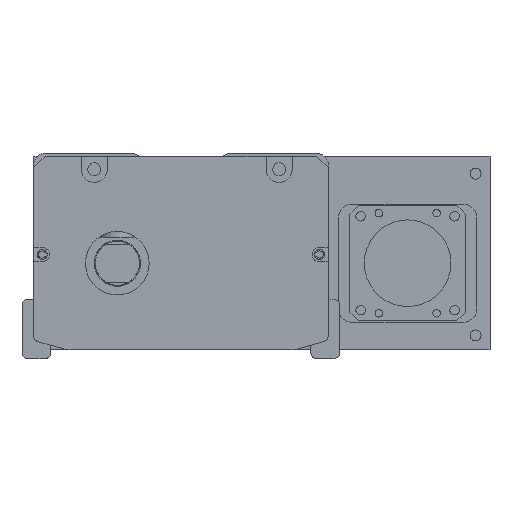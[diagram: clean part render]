
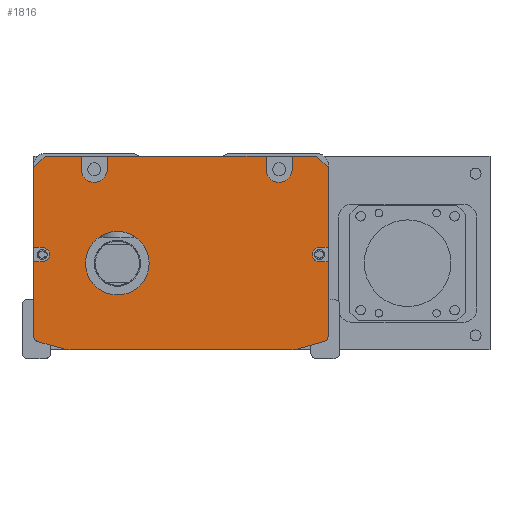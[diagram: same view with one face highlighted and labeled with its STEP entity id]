
A CAD part, front view. The second image highlights one B-rep face of the part: STEP entity #1816.
In plain terms, the highlighted planar face has unit normal (0, -1, 0).
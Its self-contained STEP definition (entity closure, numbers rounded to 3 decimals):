
#1816=ADVANCED_FACE('',(#4344,#4345),#2345,.F.);
#2345=PLANE('',#13677);
#2874=LINE('',#26432,#3667);
#2878=LINE('',#26441,#3671);
#2886=LINE('',#26468,#3679);
#2890=LINE('',#26477,#3683);
#2897=LINE('',#26493,#3690);
#2899=LINE('',#26498,#3692);
#2914=LINE('',#26541,#3707);
#2916=LINE('',#26549,#3709);
#2919=LINE('',#26553,#3712);
#2940=LINE('',#26621,#3733);
#2944=LINE('',#26630,#3737);
#2948=LINE('',#26639,#3741);
#2952=LINE('',#26648,#3745);
#2956=LINE('',#26664,#3749);
#2960=LINE('',#26670,#3753);
#2961=LINE('',#26671,#3754);
#2963=LINE('',#26687,#3756);
#2964=LINE('',#26688,#3757);
#2965=LINE('',#26689,#3758);
#2966=LINE('',#26690,#3759);
#3667=VECTOR('',#16139,1.);
#3671=VECTOR('',#16145,1.);
#3679=VECTOR('',#16167,1.);
#3683=VECTOR('',#16173,1.);
#3690=VECTOR('',#16182,1.);
#3692=VECTOR('',#16186,1.);
#3707=VECTOR('',#16225,1.);
#3709=VECTOR('',#16235,1.);
#3712=VECTOR('',#16240,1.);
#3733=VECTOR('',#16315,1.);
#3737=VECTOR('',#16321,1.);
#3741=VECTOR('',#16327,1.);
#3745=VECTOR('',#16333,1.);
#3749=VECTOR('',#16351,1.);
#3753=VECTOR('',#16355,1.);
#3754=VECTOR('',#16356,1.);
#3756=VECTOR('',#16380,1.);
#3757=VECTOR('',#16381,1.);
#3758=VECTOR('',#16382,1.);
#3759=VECTOR('',#16383,1.);
#4344=FACE_BOUND('',#5190,.T.);
#4345=FACE_BOUND('',#5191,.T.);
#5190=EDGE_LOOP('',(#7619,#7620,#7621,#7622,#7623,#7624,#7625,#7626,#7627,
#7628,#7629,#7630,#7631,#7632,#7633,#7634,#7635,#7636,#7637,#7638,#7639,
#7640,#7641,#7642,#7643,#7644,#7645,#7646));
#5191=EDGE_LOOP('',(#7647));
#7619=ORIENTED_EDGE('',*,*,#11532,.T.);
#7620=ORIENTED_EDGE('',*,*,#11409,.T.);
#7621=ORIENTED_EDGE('',*,*,#11519,.T.);
#7622=ORIENTED_EDGE('',*,*,#11436,.F.);
#7623=ORIENTED_EDGE('',*,*,#11473,.T.);
#7624=ORIENTED_EDGE('',*,*,#11438,.F.);
#7625=ORIENTED_EDGE('',*,*,#11524,.T.);
#7626=ORIENTED_EDGE('',*,*,#11425,.F.);
#7627=ORIENTED_EDGE('',*,*,#11470,.T.);
#7628=ORIENTED_EDGE('',*,*,#11429,.F.);
#7629=ORIENTED_EDGE('',*,*,#11523,.T.);
#7630=ORIENTED_EDGE('',*,*,#11413,.T.);
#7631=ORIENTED_EDGE('',*,*,#11533,.T.);
#7632=ORIENTED_EDGE('',*,*,#11503,.T.);
#7633=ORIENTED_EDGE('',*,*,#11531,.T.);
#7634=ORIENTED_EDGE('',*,*,#11499,.T.);
#7635=ORIENTED_EDGE('',*,*,#11534,.T.);
#7636=ORIENTED_EDGE('',*,*,#11456,.T.);
#7637=ORIENTED_EDGE('',*,*,#11459,.T.);
#7638=ORIENTED_EDGE('',*,*,#11462,.T.);
#7639=ORIENTED_EDGE('',*,*,#11463,.T.);
#7640=ORIENTED_EDGE('',*,*,#11419,.T.);
#7641=ORIENTED_EDGE('',*,*,#11466,.T.);
#7642=ORIENTED_EDGE('',*,*,#11421,.T.);
#7643=ORIENTED_EDGE('',*,*,#11535,.T.);
#7644=ORIENTED_EDGE('',*,*,#11511,.T.);
#7645=ORIENTED_EDGE('',*,*,#11530,.T.);
#7646=ORIENTED_EDGE('',*,*,#11507,.T.);
#7647=ORIENTED_EDGE('',*,*,#11475,.T.);
#9893=VERTEX_POINT('',#26433);
#9894=VERTEX_POINT('',#26434);
#9897=VERTEX_POINT('',#26442);
#9898=VERTEX_POINT('',#26443);
#9903=VERTEX_POINT('',#26454);
#9904=VERTEX_POINT('',#26456);
#9905=VERTEX_POINT('',#26460);
#9906=VERTEX_POINT('',#26461);
#9909=VERTEX_POINT('',#26469);
#9910=VERTEX_POINT('',#26470);
#9913=VERTEX_POINT('',#26478);
#9914=VERTEX_POINT('',#26479);
#9918=VERTEX_POINT('',#26488);
#9920=VERTEX_POINT('',#26492);
#9921=VERTEX_POINT('',#26496);
#9923=VERTEX_POINT('',#26499);
#9933=VERTEX_POINT('',#26529);
#9936=VERTEX_POINT('',#26534);
#9938=VERTEX_POINT('',#26540);
#9940=VERTEX_POINT('',#26546);
#9943=VERTEX_POINT('',#26572);
#9959=VERTEX_POINT('',#26619);
#9961=VERTEX_POINT('',#26622);
#9964=VERTEX_POINT('',#26629);
#9965=VERTEX_POINT('',#26631);
#9967=VERTEX_POINT('',#26637);
#9969=VERTEX_POINT('',#26640);
#9972=VERTEX_POINT('',#26647);
#9973=VERTEX_POINT('',#26649);
#11409=EDGE_CURVE('',#9893,#9894,#2874,.T.);
#11413=EDGE_CURVE('',#9897,#9898,#2878,.T.);
#11419=EDGE_CURVE('',#9904,#9903,#12564,.T.);
#11421=EDGE_CURVE('',#9905,#9906,#12565,.T.);
#11425=EDGE_CURVE('',#9909,#9910,#2886,.T.);
#11429=EDGE_CURVE('',#9913,#9914,#2890,.T.);
#11436=EDGE_CURVE('',#9920,#9918,#2897,.T.);
#11438=EDGE_CURVE('',#9921,#9923,#2899,.T.);
#11456=EDGE_CURVE('',#9933,#9936,#12572,.T.);
#11459=EDGE_CURVE('',#9936,#9938,#2914,.T.);
#11462=EDGE_CURVE('',#9938,#9940,#12574,.T.);
#11463=EDGE_CURVE('',#9940,#9904,#2916,.T.);
#11466=EDGE_CURVE('',#9903,#9905,#2919,.T.);
#11470=EDGE_CURVE('',#9909,#9914,#12577,.T.);
#11473=EDGE_CURVE('',#9920,#9923,#12580,.T.);
#11475=EDGE_CURVE('',#9943,#9943,#12581,.T.);
#11499=EDGE_CURVE('',#9961,#9959,#2940,.T.);
#11503=EDGE_CURVE('',#9965,#9964,#2944,.T.);
#11507=EDGE_CURVE('',#9969,#9967,#2948,.T.);
#11511=EDGE_CURVE('',#9973,#9972,#2952,.T.);
#11519=EDGE_CURVE('',#9894,#9918,#2956,.T.);
#11523=EDGE_CURVE('',#9913,#9897,#2960,.T.);
#11524=EDGE_CURVE('',#9921,#9910,#2961,.T.);
#11530=EDGE_CURVE('',#9972,#9969,#12595,.T.);
#11531=EDGE_CURVE('',#9964,#9961,#12596,.T.);
#11532=EDGE_CURVE('',#9967,#9893,#2963,.T.);
#11533=EDGE_CURVE('',#9898,#9965,#2964,.T.);
#11534=EDGE_CURVE('',#9959,#9933,#2965,.T.);
#11535=EDGE_CURVE('',#9906,#9973,#2966,.T.);
#12564=CIRCLE('',#13604,10.);
#12565=CIRCLE('',#13606,2.);
#12572=CIRCLE('',#13622,2.);
#12574=CIRCLE('',#13626,10.);
#12577=CIRCLE('',#13634,4.5);
#12580=CIRCLE('',#13639,4.5);
#12581=CIRCLE('',#13642,11.);
#12595=CIRCLE('',#13673,2.5);
#12596=CIRCLE('',#13675,2.5);
#13604=AXIS2_PLACEMENT_3D('',#26455,#16154,#16155);
#13606=AXIS2_PLACEMENT_3D('',#26459,#16159,#16160);
#13622=AXIS2_PLACEMENT_3D('',#26535,#16219,#16220);
#13626=AXIS2_PLACEMENT_3D('',#26547,#16231,#16232);
#13634=AXIS2_PLACEMENT_3D('',#26561,#16252,#16253);
#13639=AXIS2_PLACEMENT_3D('',#26567,#16262,#16263);
#13642=AXIS2_PLACEMENT_3D('',#26571,#16269,#16270);
#13673=AXIS2_PLACEMENT_3D('',#26683,#16372,#16373);
#13675=AXIS2_PLACEMENT_3D('',#26685,#16376,#16377);
#13677=AXIS2_PLACEMENT_3D('',#26691,#16384,#16385);
#16139=DIRECTION('',(-0.707,0.,0.707));
#16145=DIRECTION('',(-0.707,0.,-0.707));
#16154=DIRECTION('',(0.,-1.,0.));
#16155=DIRECTION('',(0.,0.,-1.));
#16159=DIRECTION('',(0.,-1.,0.));
#16160=DIRECTION('',(0.,0.,-1.));
#16167=DIRECTION('',(0.,0.,1.));
#16173=DIRECTION('',(0.,0.,-1.));
#16182=DIRECTION('',(0.,0.,1.));
#16186=DIRECTION('',(0.,0.,-1.));
#16219=DIRECTION('',(0.,-1.,0.));
#16220=DIRECTION('',(0.,0.,1.));
#16225=DIRECTION('',(0.963,0.,-0.269));
#16231=DIRECTION('',(0.,-1.,0.));
#16232=DIRECTION('',(0.,0.,1.));
#16235=DIRECTION('',(1.,0.,0.));
#16240=DIRECTION('',(0.963,0.,0.269));
#16252=DIRECTION('',(0.,1.,0.));
#16253=DIRECTION('',(0.,0.,1.));
#16262=DIRECTION('',(0.,1.,0.));
#16263=DIRECTION('',(0.,0.,1.));
#16269=DIRECTION('',(0.,1.,0.));
#16270=DIRECTION('',(0.,0.,1.));
#16315=DIRECTION('',(-1.,0.,0.));
#16321=DIRECTION('',(1.,0.,0.));
#16327=DIRECTION('',(1.,0.,0.));
#16333=DIRECTION('',(-1.,0.,0.));
#16351=DIRECTION('',(-1.,0.,0.));
#16355=DIRECTION('',(-1.,0.,0.));
#16356=DIRECTION('',(-1.,0.,0.));
#16372=DIRECTION('',(0.,1.,0.));
#16373=DIRECTION('',(0.,0.,1.));
#16376=DIRECTION('',(0.,1.,0.));
#16377=DIRECTION('',(0.,0.,1.));
#16380=DIRECTION('',(0.,0.,1.));
#16381=DIRECTION('',(0.,0.,-1.));
#16382=DIRECTION('',(0.,0.,-1.));
#16383=DIRECTION('',(0.,0.,1.));
#16384=DIRECTION('',(0.,1.,0.));
#16385=DIRECTION('',(-1.,0.,0.));
#26432=CARTESIAN_POINT('',(43.808,-117.5,-1.));
#26433=CARTESIAN_POINT('',(47.808,-117.5,-5.));
#26434=CARTESIAN_POINT('',(43.808,-117.5,-1.));
#26441=CARTESIAN_POINT('',(-54.192,-117.5,-5.));
#26442=CARTESIAN_POINT('',(-50.192,-117.5,-1.));
#26443=CARTESIAN_POINT('',(-54.192,-117.5,-5.));
#26454=CARTESIAN_POINT('',(37.424,-117.5,-67.631));
#26455=CARTESIAN_POINT('',(34.733,-117.5,-58.));
#26456=CARTESIAN_POINT('',(34.733,-117.5,-68.));
#26459=CARTESIAN_POINT('',(45.808,-117.5,-63.212));
#26460=CARTESIAN_POINT('',(46.346,-117.5,-65.138));
#26461=CARTESIAN_POINT('',(47.808,-117.5,-63.212));
#26468=CARTESIAN_POINT('',(-28.692,-117.5,-3.5));
#26469=CARTESIAN_POINT('',(-28.692,-117.5,-5.5));
#26470=CARTESIAN_POINT('',(-28.692,-117.5,-1.));
#26477=CARTESIAN_POINT('',(-37.692,-117.5,-1.));
#26478=CARTESIAN_POINT('',(-37.692,-117.5,-1.));
#26479=CARTESIAN_POINT('',(-37.692,-117.5,-5.5));
#26488=CARTESIAN_POINT('',(35.308,-117.5,-1.));
#26492=CARTESIAN_POINT('',(35.308,-117.5,-5.5));
#26493=CARTESIAN_POINT('',(35.308,-117.5,-1.));
#26496=CARTESIAN_POINT('',(26.308,-117.5,-1.));
#26498=CARTESIAN_POINT('',(26.308,-117.5,-1.));
#26499=CARTESIAN_POINT('',(26.308,-117.5,-5.5));
#26529=CARTESIAN_POINT('',(-54.192,-117.5,-63.212));
#26534=CARTESIAN_POINT('',(-52.731,-117.5,-65.138));
#26535=CARTESIAN_POINT('',(-52.192,-117.5,-63.212));
#26540=CARTESIAN_POINT('',(-43.809,-117.5,-67.631));
#26541=CARTESIAN_POINT('',(-55.807,-117.5,-64.279));
#26546=CARTESIAN_POINT('',(-41.118,-117.5,-68.));
#26547=CARTESIAN_POINT('',(-41.118,-117.5,-58.));
#26549=CARTESIAN_POINT('',(-54.692,-117.5,-68.));
#26553=CARTESIAN_POINT('',(49.422,-117.5,-64.279));
#26561=CARTESIAN_POINT('',(-33.192,-117.5,-5.5));
#26567=CARTESIAN_POINT('',(30.808,-117.5,-5.5));
#26571=CARTESIAN_POINT('',(-25.192,-117.5,-38.));
#26572=CARTESIAN_POINT('',(-25.192,-117.5,-27.));
#26619=CARTESIAN_POINT('',(-54.192,-117.5,-37.5));
#26621=CARTESIAN_POINT('',(-3.192,-117.5,-37.5));
#26622=CARTESIAN_POINT('',(-51.192,-117.5,-37.5));
#26629=CARTESIAN_POINT('',(-51.192,-117.5,-32.5));
#26630=CARTESIAN_POINT('',(-3.192,-117.5,-32.5));
#26631=CARTESIAN_POINT('',(-54.192,-117.5,-32.5));
#26637=CARTESIAN_POINT('',(47.808,-117.5,-32.5));
#26639=CARTESIAN_POINT('',(-3.192,-117.5,-32.5));
#26640=CARTESIAN_POINT('',(44.808,-117.5,-32.5));
#26647=CARTESIAN_POINT('',(44.808,-117.5,-37.5));
#26648=CARTESIAN_POINT('',(-3.192,-117.5,-37.5));
#26649=CARTESIAN_POINT('',(47.808,-117.5,-37.5));
#26664=CARTESIAN_POINT('',(-3.192,-117.5,-1.));
#26670=CARTESIAN_POINT('',(-54.192,-117.5,-1.));
#26671=CARTESIAN_POINT('',(-54.192,-117.5,-1.));
#26683=CARTESIAN_POINT('',(44.808,-117.5,-35.));
#26685=CARTESIAN_POINT('',(-51.192,-117.5,-35.));
#26687=CARTESIAN_POINT('',(47.808,-117.5,-1.));
#26688=CARTESIAN_POINT('',(-54.192,-117.5,-62.));
#26689=CARTESIAN_POINT('',(-54.192,-117.5,-62.));
#26690=CARTESIAN_POINT('',(47.808,-117.5,-1.));
#26691=CARTESIAN_POINT('',(-3.192,-117.5,-1.));
